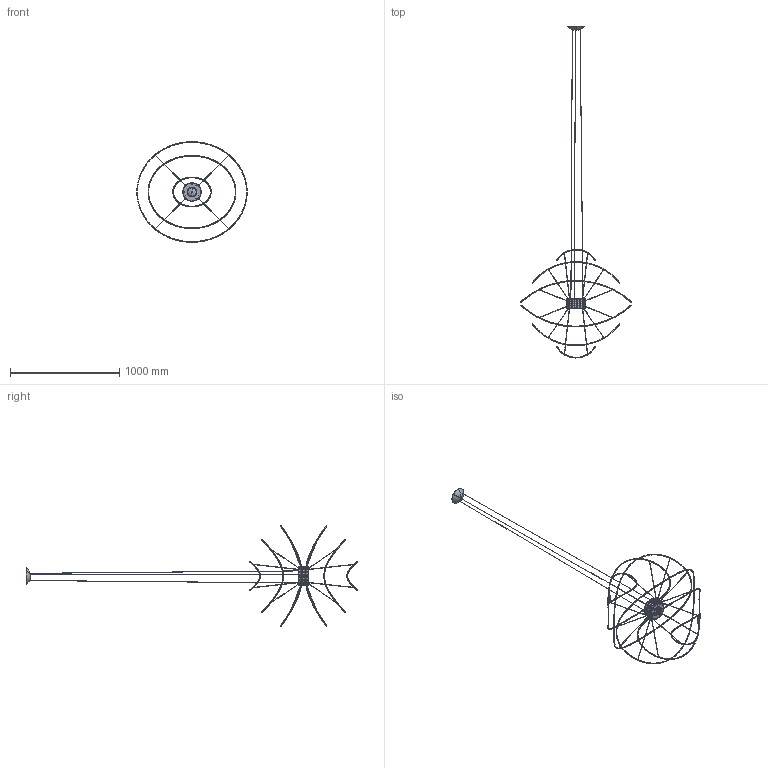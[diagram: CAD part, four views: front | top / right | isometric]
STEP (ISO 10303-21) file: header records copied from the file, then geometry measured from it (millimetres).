
FILE_DESCRIPTION (( 'STEP AP203' ), '1' );
FILE_NAME ('SPHOOPS6XXXXLED-3D.STEP', '2015-02-24T18:50:44', ( '' ), ( '' ), 'SwSTEP 2.0', 'SolidWorks 2014', '' );
FILE_SCHEMA (( 'CONFIG_CONTROL_DESIGN' ));
Length unit declared in the file: millimetre
Products named in the file (21): WSAXO018CMHB014500; WSAXO018CMJB014500; WSAXO018CMHC010000; WSAXO018CMCA014501; MSPHOOPSLED-02-3D; WSAXO018CMHG010000; MSPHOOPSLED-03-3D; MSPHOOPSLED-3D; WSCA10493000B2930B; WSAXO018CMHB010000; WSAXO018CMFB010000; WSAXO018CMCI010001; WSAXO018CMHE010000; WSAXO018CMHF010000; WSAXO018CMCE014502; WSAXO018CMHD010000; SPHOOPS6XXXXLED-3D; ROSONESPHOOPSLED-3D; WSAXO018CMJA014500; WSAXO018CMJC014500; WSAXO018CMHH010000
Assembly tree (45 placements, depth 4):
  SPHOOPS6XXXXLED-3D
    WSAXO018CMHB014500  x10
    WSAXO018CMJB014500  x2
      WSAXO018CMHB010000
      WSAXO018CMHF010000
      WSAXO018CMHE010000
    WSAXO018CMJC014500  x2
      WSAXO018CMHB010000
      WSAXO018CMHH010000
      WSAXO018CMHG010000
    MSPHOOPSLED-3D
      MSPHOOPSLED-02-3D
        WSAXO018CMFB010000
      WSAXO018CMCA014501
      WSAXO018CMCE014502
      WSCA10493000B2930B  x3
      ROSONESPHOOPSLED-3D
      MSPHOOPSLED-03-3D
        WSAXO018CMCI010001
    WSAXO018CMJA014500  x2
      WSAXO018CMHB010000
      WSAXO018CMHD010000
      WSAXO018CMHC010000
Bounding box: 1012 x 3042.65 x 920.95 mm (x, y, z)
Volume: 867310.5 mm3; surface area: 785491.7 mm2
Topology: 55 solids, 55 shells, 582 faces, 1427 edges, 916 vertices
Faces by surface type: cylinder 328, plane 134, torus 86, bspline 24, cone 10
Entity records: 18647 total; most frequent: CARTESIAN_POINT 4572, DIRECTION 2605, ORIENTED_EDGE 2242, EDGE_CURVE 1121, AXIS2_PLACEMENT_3D 1078, VERTEX_POINT 736, CIRCLE 628, EDGE_LOOP 491
